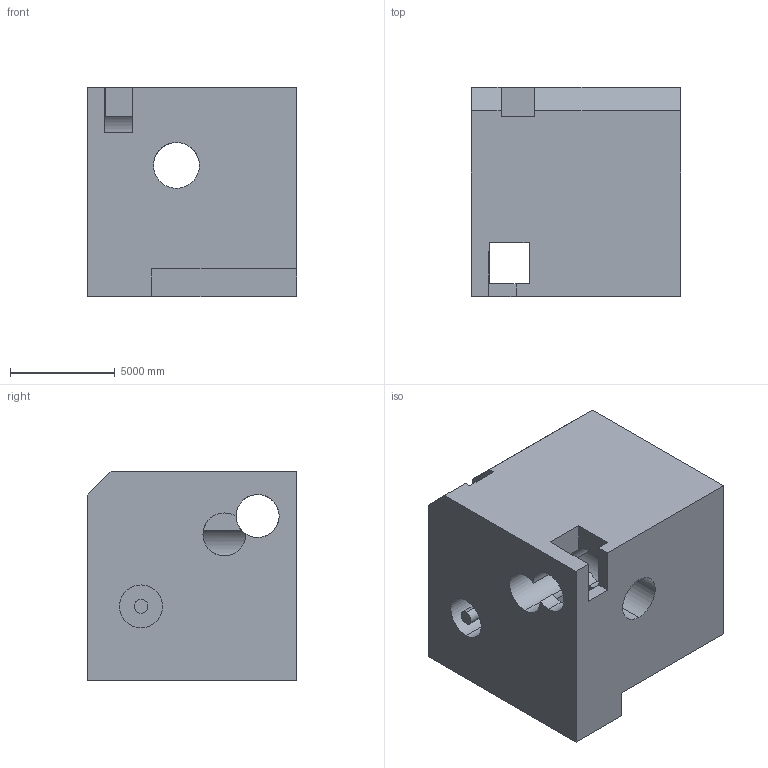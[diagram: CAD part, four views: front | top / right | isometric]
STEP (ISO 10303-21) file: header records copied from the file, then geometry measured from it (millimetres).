
FILE_DESCRIPTION (( 'STEP AP203' ), '1' );
FILE_NAME ('980.STEP', '2022-07-29T14:54:52', ( 'user' ), ( '' ), 'SwSTEP 2.0', 'SolidWorks 2021', '' );
FILE_SCHEMA (( 'CONFIG_CONTROL_DESIGN' ));
Length unit declared in the file: centimetre
Products named in the file (1): 980
Bounding box: 10000 x 10000 x 10000 mm (x, y, z)
Volume: 812182784194.7 mm3; surface area: 845894948.3 mm2
Topology: 1 solids, 1 shells, 46 faces, 144 edges, 96 vertices
Faces by surface type: plane 31, cylinder 15
Entity records: 2261 total; most frequent: CARTESIAN_POINT 863, ORIENTED_EDGE 288, DIRECTION 266, EDGE_CURVE 144, VECTOR 100, LINE 100, VERTEX_POINT 96, AXIS2_PLACEMENT_3D 83
